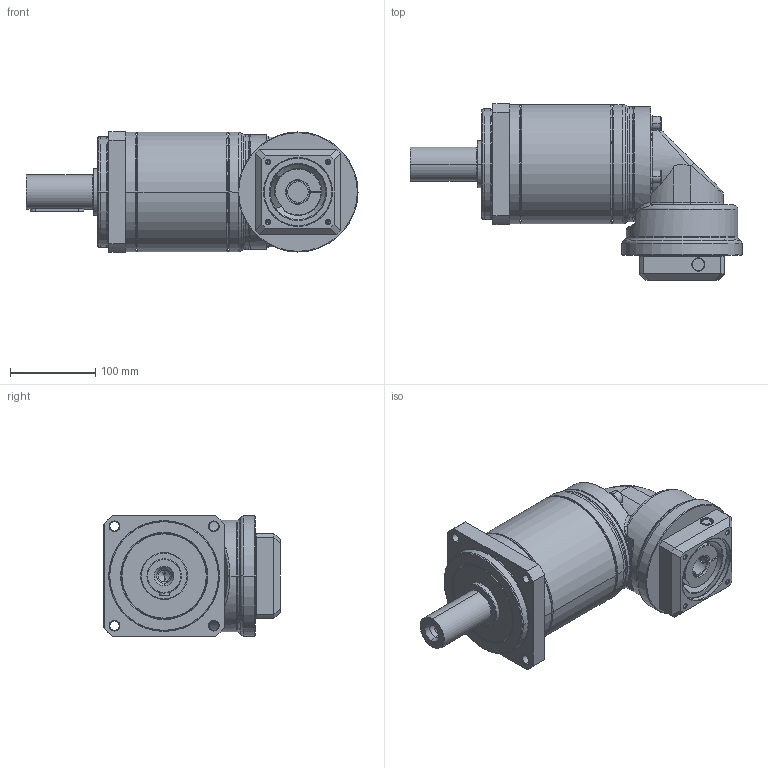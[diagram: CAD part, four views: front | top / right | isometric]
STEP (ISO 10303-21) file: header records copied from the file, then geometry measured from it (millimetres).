
FILE_DESCRIPTION((''),'2;1');
FILE_NAME('PA2R-142_2ST_24-P0411500101_ASM','2016-05-17T',('d01943'),(''),'PRO/ENGINEER BY PARAMETRIC TECHNOLOGY CORPORATION, 2008410','PRO/ENGINEER BY PARAMETRIC TECHNOLOGY CORPORATION, 2008410','');
FILE_SCHEMA(('CONFIG_CONTROL_DESIGN'));
Length unit declared in the file: millimetre
Products named in the file (12): P1327510001; P0251500001; P0350500601; P1349500001; P1017500001; P0713501001; P0503500008; P1350500101; P0411500101; P1702500001; 2111BA10040; PA2R-142_2ST_24-P0411500101_ASM
Assembly tree (14 placements, depth 2):
  PA2R-142_2ST_24-P0411500101_ASM
    P1327510001
    P0251500001
    P0350500601
    P1349500001
    P1017500001
    P0713501001
    P0503500008
    P1350500101
    P0411500101
    P1702500001
    2111BA10040  x4
Bounding box: 390 x 207.5 x 142 mm (x, y, z)
Volume: 2789724.2 mm3; surface area: 477638.4 mm2
Topology: 14 solids, 14 shells, 735 faces, 1619 edges, 935 vertices
Faces by surface type: cylinder 218, cone 212, plane 167, torus 106, bspline 32
Entity records: 23389 total; most frequent: CARTESIAN_POINT 9144, DIRECTION 3147, ORIENTED_EDGE 2766, EDGE_CURVE 1383, AXIS2_PLACEMENT_3D 1326, VERTEX_POINT 815, EDGE_LOOP 716, CIRCLE 696
